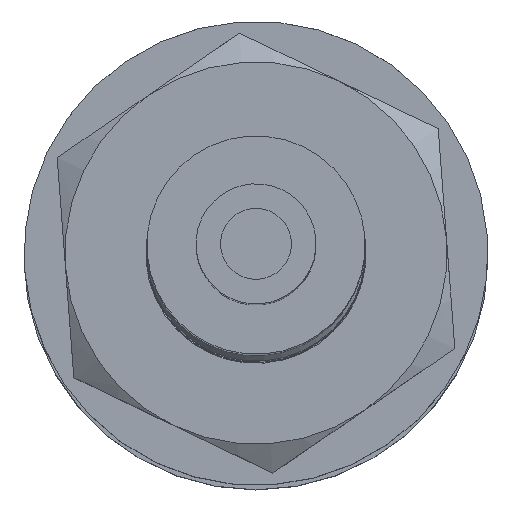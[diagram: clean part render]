
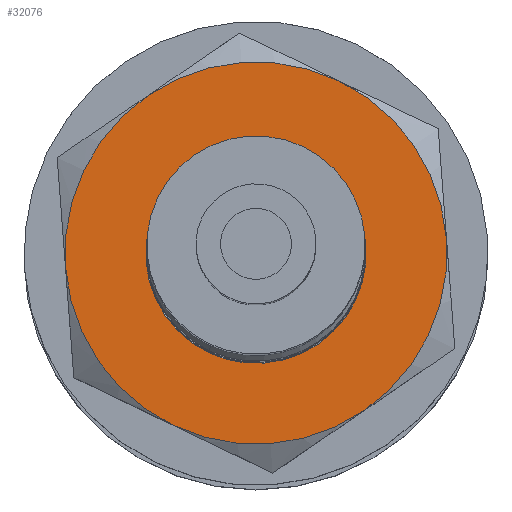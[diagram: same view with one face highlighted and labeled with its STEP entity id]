
A CAD part, top view. The second image highlights one B-rep face of the part: STEP entity #32076.
In plain terms, the highlighted planar face has unit normal (0, 0, 1).
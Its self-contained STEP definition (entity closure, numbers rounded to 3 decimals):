
#2330 = DIRECTION ( 'NONE',  ( 0., 0., -1. ) ) ;
#3672 = CIRCLE ( 'NONE', #3936, 3.5 ) ;
#3698 = ORIENTED_EDGE ( 'NONE', *, *, #37907, .F. ) ;
#3807 = AXIS2_PLACEMENT_3D ( 'NONE', #19190, #35458, #15900 ) ;
#3936 = AXIS2_PLACEMENT_3D ( 'NONE', #11972, #2330, #31991 ) ;
#4781 = DIRECTION ( 'NONE',  ( -0.997, -0.076, 0. ) ) ;
#5481 = CARTESIAN_POINT ( 'NONE',  ( 32.269, -6.22, 59.926 ) ) ;
#5743 = DIRECTION ( 'NONE',  ( 0., 0., -1. ) ) ;
#6679 = EDGE_CURVE ( 'NONE', #28672, #33525, #21416, .T. ) ;
#6815 = FACE_OUTER_BOUND ( 'NONE', #34800, .T. ) ;
#8106 = CIRCLE ( 'NONE', #15775, 3.5 ) ;
#8721 = DIRECTION ( 'NONE',  ( -0.997, -0.076, 0. ) ) ;
#10499 = CIRCLE ( 'NONE', #26615, 3.5 ) ;
#10670 = ORIENTED_EDGE ( 'NONE', *, *, #35217, .F. ) ;
#11265 = CARTESIAN_POINT ( 'NONE',  ( 32.767, -9.222, 59.926 ) ) ;
#11438 = DIRECTION ( 'NONE',  ( -0.997, -0.076, 0. ) ) ;
#11839 = AXIS2_PLACEMENT_3D ( 'NONE', #40210, #14203, #26335 ) ;
#11972 = CARTESIAN_POINT ( 'NONE',  ( 34.283, -6.067, 59.926 ) ) ;
#14043 = AXIS2_PLACEMENT_3D ( 'NONE', #30385, #22893, #14062 ) ;
#14062 = DIRECTION ( 'NONE',  ( -0.997, -0.076, 0. ) ) ;
#14172 = ORIENTED_EDGE ( 'NONE', *, *, #6679, .T. ) ;
#14189 = VERTEX_POINT ( 'NONE', #34710 ) ;
#14203 = DIRECTION ( 'NONE',  ( 0., 0., -1. ) ) ;
#14580 = VERTEX_POINT ( 'NONE', #39724 ) ;
#15130 = VERTEX_POINT ( 'NONE', #37433 ) ;
#15288 = EDGE_CURVE ( 'NONE', #33525, #28672, #29868, .T. ) ;
#15775 = AXIS2_PLACEMENT_3D ( 'NONE', #24279, #31172, #4781 ) ;
#15810 = CARTESIAN_POINT ( 'NONE',  ( 30.793, -6.332, 59.926 ) ) ;
#15900 = DIRECTION ( 'NONE',  ( -0.997, -0.076, 0. ) ) ;
#16180 = DIRECTION ( 'NONE',  ( 0., 0., -1. ) ) ;
#16517 = CIRCLE ( 'NONE', #14043, 3.5 ) ;
#17023 = VERTEX_POINT ( 'NONE', #11265 ) ;
#17532 = ORIENTED_EDGE ( 'NONE', *, *, #28103, .F. ) ;
#18087 = FACE_BOUND ( 'NONE', #36169, .T. ) ;
#18571 = CARTESIAN_POINT ( 'NONE',  ( 34.283, -6.067, 59.926 ) ) ;
#19190 = CARTESIAN_POINT ( 'NONE',  ( 34.283, -6.067, 59.926 ) ) ;
#19743 = DIRECTION ( 'NONE',  ( -0.997, -0.076, 0. ) ) ;
#19824 = EDGE_CURVE ( 'NONE', #14580, #14189, #3672, .T. ) ;
#19887 = ORIENTED_EDGE ( 'NONE', *, *, #32185, .F. ) ;
#21416 = CIRCLE ( 'NONE', #35947, 2.02 ) ;
#22056 = CIRCLE ( 'NONE', #27967, 3.5 ) ;
#22893 = DIRECTION ( 'NONE',  ( 0., 0., -1. ) ) ;
#24029 = AXIS2_PLACEMENT_3D ( 'NONE', #31725, #5743, #28575 ) ;
#24279 = CARTESIAN_POINT ( 'NONE',  ( 34.283, -6.067, 59.926 ) ) ;
#26109 = EDGE_CURVE ( 'NONE', #14189, #15130, #8106, .T. ) ;
#26335 = DIRECTION ( 'NONE',  ( -0.997, -0.076, 0. ) ) ;
#26615 = AXIS2_PLACEMENT_3D ( 'NONE', #18571, #31037, #8721 ) ;
#27196 = VERTEX_POINT ( 'NONE', #15810 ) ;
#27305 = CARTESIAN_POINT ( 'NONE',  ( 36.257, -8.958, 59.926 ) ) ;
#27967 = AXIS2_PLACEMENT_3D ( 'NONE', #35749, #16180, #19743 ) ;
#28103 = EDGE_CURVE ( 'NONE', #17023, #27196, #41237, .T. ) ;
#28575 = DIRECTION ( 'NONE',  ( -0.997, -0.076, 0. ) ) ;
#28672 = VERTEX_POINT ( 'NONE', #5481 ) ;
#29716 = VERTEX_POINT ( 'NONE', #27305 ) ;
#29868 = CIRCLE ( 'NONE', #24029, 2.02 ) ;
#29951 = CARTESIAN_POINT ( 'NONE',  ( 36.297, -5.915, 59.926 ) ) ;
#30385 = CARTESIAN_POINT ( 'NONE',  ( 34.283, -6.067, 59.926 ) ) ;
#31037 = DIRECTION ( 'NONE',  ( 0., 0., -1. ) ) ;
#31172 = DIRECTION ( 'NONE',  ( 0., 0., -1. ) ) ;
#31359 = ORIENTED_EDGE ( 'NONE', *, *, #15288, .T. ) ;
#31725 = CARTESIAN_POINT ( 'NONE',  ( 34.283, -6.067, 59.926 ) ) ;
#31991 = DIRECTION ( 'NONE',  ( -0.997, -0.076, 0. ) ) ;
#32076 = ADVANCED_FACE ( 'NONE', ( #18087, #6815 ), #39339, .F. ) ;
#32185 = EDGE_CURVE ( 'NONE', #29716, #17023, #16517, .T. ) ;
#33525 = VERTEX_POINT ( 'NONE', #29951 ) ;
#34290 = CARTESIAN_POINT ( 'NONE',  ( 34.283, -6.067, 59.926 ) ) ;
#34710 = CARTESIAN_POINT ( 'NONE',  ( 35.799, -2.913, 59.926 ) ) ;
#34800 = EDGE_LOOP ( 'NONE', ( #3698, #17532, #19887, #10670, #39160, #36748 ) ) ;
#35217 = EDGE_CURVE ( 'NONE', #15130, #29716, #22056, .T. ) ;
#35458 = DIRECTION ( 'NONE',  ( 0., 0., -1. ) ) ;
#35749 = CARTESIAN_POINT ( 'NONE',  ( 34.283, -6.067, 59.926 ) ) ;
#35947 = AXIS2_PLACEMENT_3D ( 'NONE', #34290, #40868, #11438 ) ;
#36169 = EDGE_LOOP ( 'NONE', ( #31359, #14172 ) ) ;
#36748 = ORIENTED_EDGE ( 'NONE', *, *, #19824, .F. ) ;
#37433 = CARTESIAN_POINT ( 'NONE',  ( 37.773, -5.803, 59.926 ) ) ;
#37907 = EDGE_CURVE ( 'NONE', #27196, #14580, #10499, .T. ) ;
#39160 = ORIENTED_EDGE ( 'NONE', *, *, #26109, .F. ) ;
#39339 = PLANE ( 'NONE',  #11839 ) ;
#39724 = CARTESIAN_POINT ( 'NONE',  ( 32.309, -3.177, 59.926 ) ) ;
#40210 = CARTESIAN_POINT ( 'NONE',  ( 34.283, -6.067, 59.926 ) ) ;
#40868 = DIRECTION ( 'NONE',  ( 0., 0., -1. ) ) ;
#41237 = CIRCLE ( 'NONE', #3807, 3.5 ) ;
